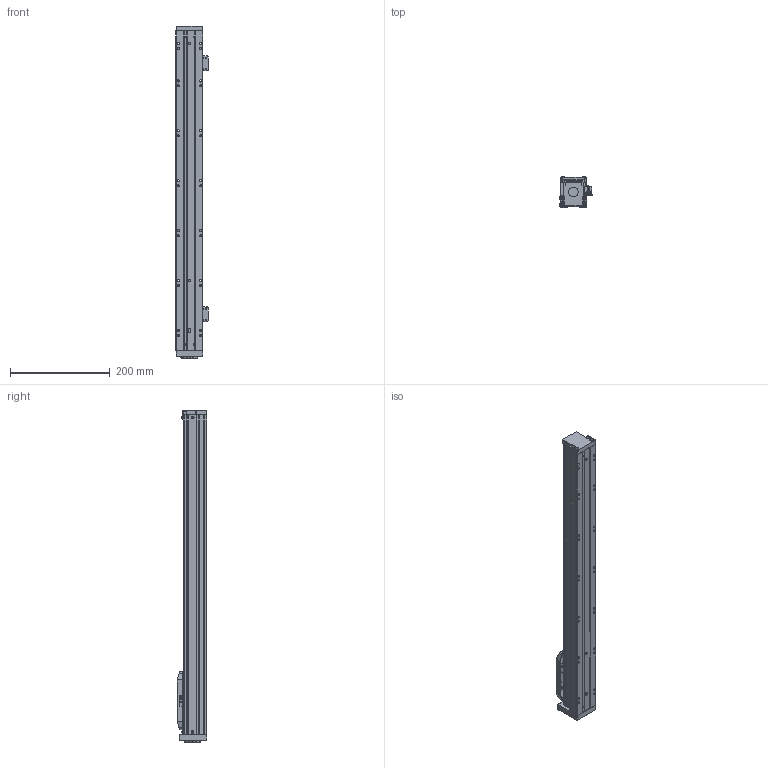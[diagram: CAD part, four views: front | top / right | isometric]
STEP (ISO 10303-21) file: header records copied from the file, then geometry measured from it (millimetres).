
FILE_DESCRIPTION (( 'STEP AP203' ), '1' );
FILE_NAME ('KTH5-L10-S500.STEP', '2019-12-19T08:24:15', ( '微软用户' ), ( '微软中国' ), 'SwSTEP 2.0', 'SolidWorks 2017', '' );
FILE_SCHEMA (( 'CONFIG_CONTROL_DESIGN' ));
Length unit declared in the file: millimetre
Products named in the file (16): GB╱T 70.2-2008[内六角平圆头螺钉M3×10]_M3×10; LES50-004賑釱; ヶ裔-党蜊唳; 耜啣; 粣創釱-郔笝唳20190813; 階裔; 嫖萇羲壽諉揖え; 棠沭; EE-SX674; LES50-013癹弇菜; EE-SX674WR嫖萇羲壽假蚾啣; 詩湍; KTH5-L10-S500; 詩湍揤啣; GB╱T 70.1-2008[内六角圆柱头螺钉M4×16]_M4×16; LES50-001菁釱
Assembly tree (31 placements, depth 2):
  KTH5-L10-S500
    LES50-001菁釱
    LES50-004賑釱
    耜啣  x2
    階裔
    棠沭  x2
    LES50-013癹弇菜  x2
    詩湍
    詩湍揤啣  x2
    GB╱T 70.1-2008[内六角圆柱头螺钉M4×16]_M4×16  x4
    GB╱T 70.2-2008[内六角平圆头螺钉M3×10]_M3×10  x8
    ヶ裔-党蜊唳
    粣創釱-郔笝唳20190813
    嫖萇羲壽諉揖え
    EE-SX674  x2
    EE-SX674WR嫖萇羲壽假蚾啣  x2
Bounding box: 64.25 x 60 x 665 mm (x, y, z)
Volume: 643311.5 mm3; surface area: 349064 mm2
Topology: 31 solids, 31 shells, 1405 faces, 3404 edges, 2084 vertices
Faces by surface type: plane 654, cylinder 455, cone 232, torus 36, sphere 16, bspline 12
Entity records: 32366 total; most frequent: CARTESIAN_POINT 5751, DIRECTION 5272, ORIENTED_EDGE 4876, EDGE_CURVE 2438, AXIS2_PLACEMENT_3D 1860, VECTOR 1552, LINE 1552, VERTEX_POINT 1549
